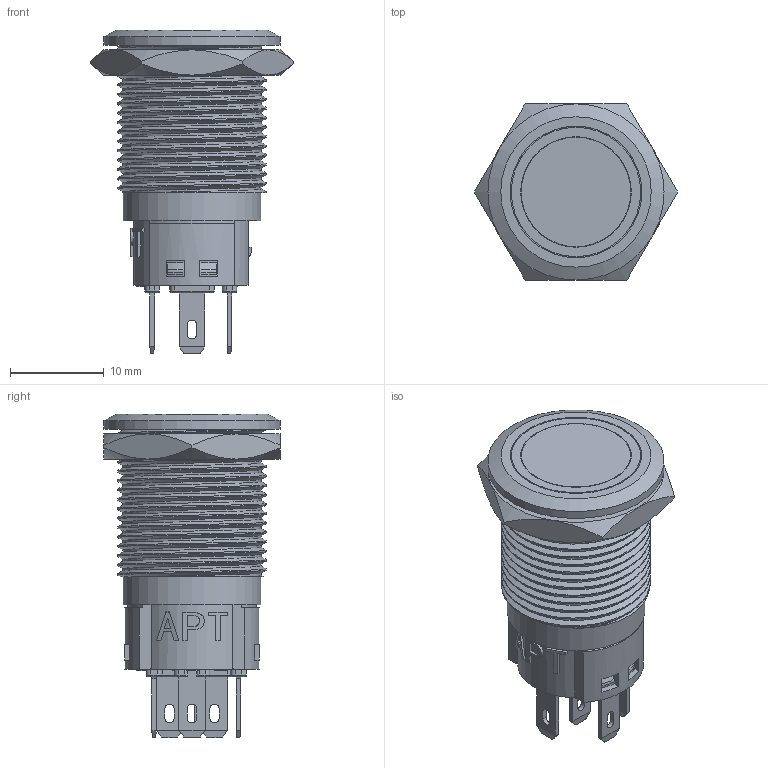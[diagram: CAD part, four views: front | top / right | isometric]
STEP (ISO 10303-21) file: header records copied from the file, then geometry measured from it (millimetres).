
FILE_DESCRIPTION(/* description */ (''),/* implementation_level */ '2;1');
FILE_NAME(/* name */ 'FM16N-SFP-11D1.prt.stp',/* time_stamp */ '2020-08-03T16:49:08+08:00',/* author */ (''),/* organization */ (''),/* preprocessor_version */ 'ST-DEVELOPER v16.7',/* originating_system */ 'SIEMENS PLM Software NX 12.0',/* authorisation */ '');
FILE_SCHEMA (('AUTOMOTIVE_DESIGN { 1 0 10303 214 3 1 1 1 }'));
Length unit declared in the file: millimetre
Products named in the file (1): Admi2AF0CFF0h9d8
Bounding box: 21.71 x 18.8 x 34.55 mm (x, y, z)
Volume: 2725.1 mm3; surface area: 6779.1 mm2
Topology: 4 solids, 4 shells, 959 faces, 2739 edges, 1778 vertices
Faces by surface type: plane 646, cylinder 167, torus 50, extrusion 43, cone 39, bspline 14
Full cylindrical faces by diameter (mm): 1.2 x2, 2 x3, 5 x1, 7 x1, 7.5 x1, 11 x1, 11.25 x1, 11.7 x1, 11.8 x1, 13.8 x1, 13.9 x1, 14.05 x1, 14.7 x1, 18.8 x1
Entity records: 38665 total; most frequent: CARTESIAN_POINT 9969, ORIENTED_EDGE 5416, DIRECTION 4800, EDGE_CURVE 2708, VECTOR 1930, LINE 1887, VERTEX_POINT 1769, AXIS2_PLACEMENT_3D 1435
